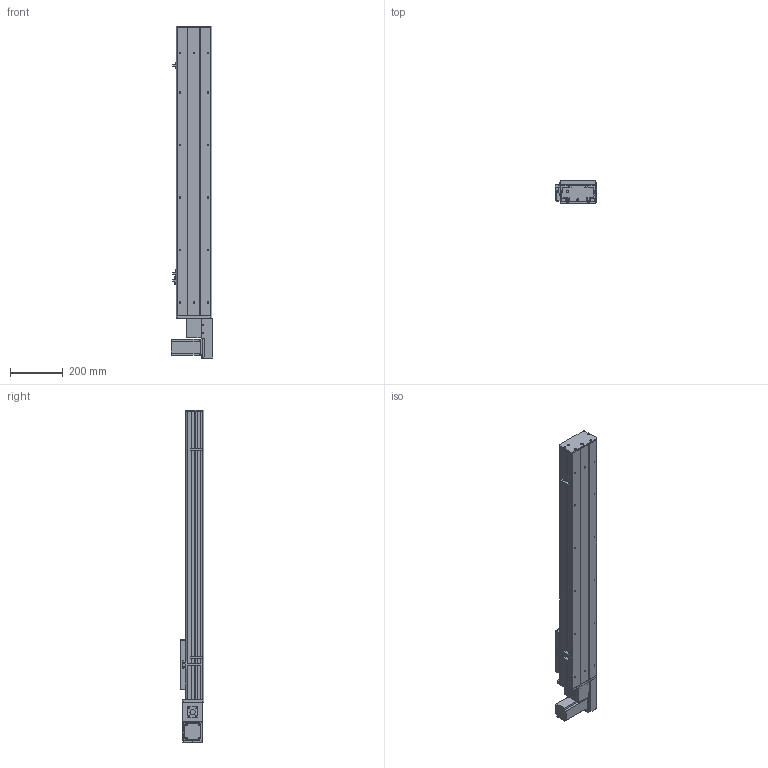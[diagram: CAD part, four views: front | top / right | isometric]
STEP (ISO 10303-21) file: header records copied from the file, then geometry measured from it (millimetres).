
FILE_DESCRIPTION (( 'STEP AP203' ), '1' );
FILE_NAME ('Y135CB-D90-S800-BL-P400W.STEP', '2020-02-17T08:35:25', ( '微软用户' ), ( '微软中国' ), 'SwSTEP 2.0', 'SolidWorks 2017', '' );
FILE_SCHEMA (( 'CONFIG_CONTROL_DESIGN' ));
Length unit declared in the file: millimetre
Products named in the file (18): 5CB --掛极耜裔啣-; 35CB---喘謫眊楊擘啣; C-詩湍揤踡え-陔; Y10B--々湍喘謫眊--666; 135CB--詩湍-CE; Y10B-耜蚾蟀諉啣----; Y100-135俋离換覜ん--; Y俋欶BR----; Y135C-陔俋离換覜結え-; 0B-埴倛裔啣; 5C--俋欶; 0B-源倛裔啣; C-雄赽釱--; 0B-萇儂楊擘啣; Y135CB-耜裔; Y135CB-D90-S800-BL-P400W; san松下电机400不带刹车----; 135CB---遴掛极.-
Assembly tree (21 placements, depth 2):
  Y135CB-D90-S800-BL-P400W
    Y135CB-耜裔
    135CB---遴掛极.-
    35CB---喘謫眊楊擘啣
    Y10B--々湍喘謫眊--666
    Y10B-耜蚾蟀諉啣----
    Y俋欶BR----
    0B-埴倛裔啣
    0B-源倛裔啣
    0B-萇儂楊擘啣
    san松下电机400不带刹车----
    5CB --掛极耜裔啣-  x2
    C-詩湍揤踡え-陔  x2
    135CB--詩湍-CE
    Y100-135俋离換覜ん--  x3
    Y135C-陔俋离換覜結え-
    5C--俋欶
    C-雄赽釱--
Bounding box: 157.5 x 91 x 1264.5 mm (x, y, z)
Volume: 3867920.1 mm3; surface area: 1508821 mm2
Topology: 21 solids, 21 shells, 941 faces, 2509 edges, 1662 vertices
Faces by surface type: cylinder 467, plane 458, cone 16
Entity records: 29139 total; most frequent: DIRECTION 4837, CARTESIAN_POINT 4768, ORIENTED_EDGE 4494, EDGE_CURVE 2247, AXIS2_PLACEMENT_3D 1759, VERTEX_POINT 1490, VECTOR 1319, LINE 1319
